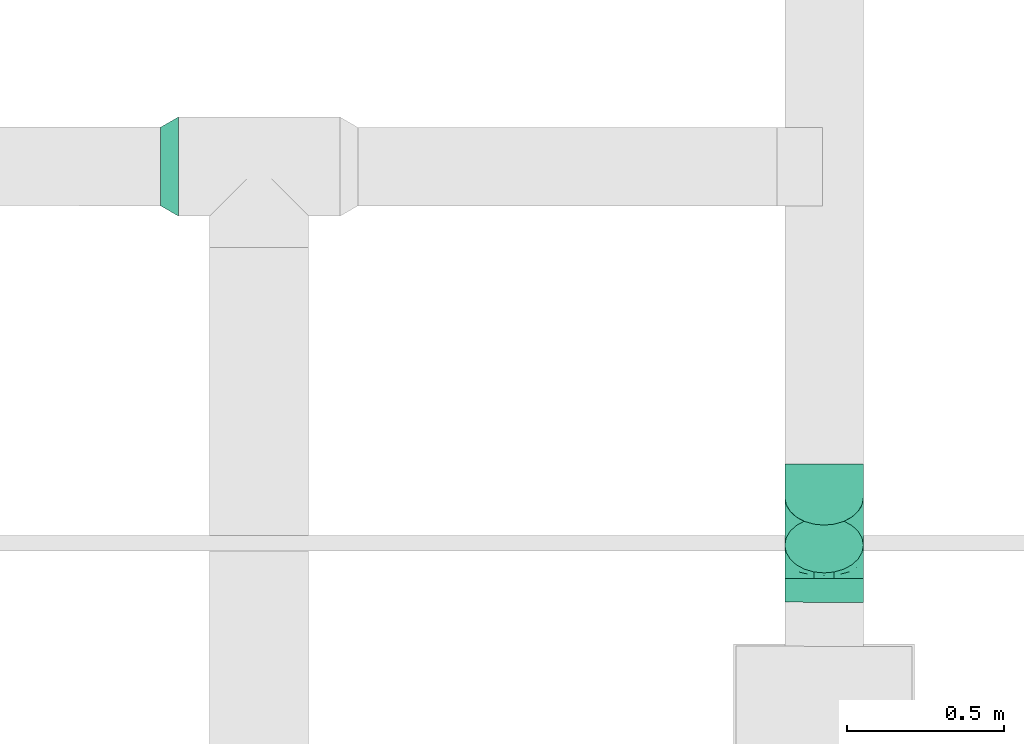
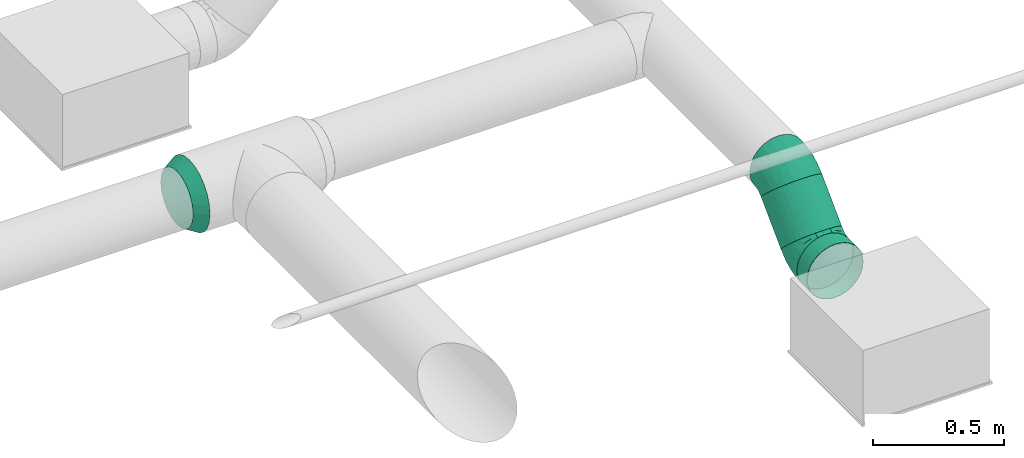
# One storey, part 35 of 63: 3 flow fittings, 2 flow segments.
"""IFC2X3 building model written with IfcOpenShell, lengths in millimetres."""

from ifc_helpers import new_model, entity, si_unit, converted_unit, derived_unit, direction, frame, origin_with_axes, origin_2d_with_axis, place, context, subcontext, project, spatial, hollow_circle, extrude, open_shell, surface_model, source, transform, mapped, type_object, element, save


model = new_model("IFC2X3")

# Units and contexts
model_context = context("Model", 3, precision=0.01, world=frame((0.0, 4.29681676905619e-09, 0.0)), true_north=direction((4.01073788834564e-13, 1.0)))
plan_context = context("Plan", 3, precision=0.01, world=frame((0.0, 4.29681676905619e-09, 0.0)), true_north=direction((4.01073788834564e-13, 1.0)))
body_context = subcontext(model_context, "Body", "Model", "MODEL_VIEW")
ifc_project = project(units=[converted_unit("PLANEANGLEUNIT", "DEGREE", entity("IfcPositiveLengthMeasure", 0.0174532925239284), si_unit("PLANEANGLEUNIT", "RADIAN"), dimensions=[0, 0, 0, 0, 0, 0, 0]), si_unit("AREAUNIT", "SQUARE_METRE"), si_unit("LENGTHUNIT", "METRE", prefix="MILLI"), si_unit("MASSUNIT", "GRAM", prefix="KILO"), si_unit("POWERUNIT", "WATT"), si_unit("PRESSUREUNIT", "PASCAL"), si_unit("FORCEUNIT", "NEWTON", prefix="KILO"), si_unit("ELECTRICVOLTAGEUNIT", "VOLT"), si_unit("ELECTRICCURRENTUNIT", "AMPERE"), si_unit("THERMODYNAMICTEMPERATUREUNIT", "DEGREE_CELSIUS"), si_unit("TIMEUNIT", "SECOND"), si_unit("VOLUMEUNIT", "CUBIC_METRE"), derived_unit("LINEARVELOCITYUNIT", [(si_unit("LENGTHUNIT", "METRE"), 1), (si_unit("TIMEUNIT", "SECOND"), -1)]), derived_unit("VOLUMETRICFLOWRATEUNIT", [(si_unit("VOLUMEUNIT", "CUBIC_METRE"), 1), (si_unit("TIMEUNIT", "SECOND"), -1)]), derived_unit("THERMALTRANSMITTANCEUNIT", [(si_unit("POWERUNIT", "WATT"), 1), (si_unit("THERMODYNAMICTEMPERATUREUNIT", "KELVIN"), -1), (si_unit("AREAUNIT", "SQUARE_METRE"), -1)]), derived_unit("SOUNDPRESSUREUNIT", [(si_unit("PRESSUREUNIT", "PASCAL"), 1)])], contexts=[model_context, plan_context])

# Site, building, storey
site_placement = place(None, frame((0.0, -4.29681676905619e-09, 0.0), z_axis=(0.0, 0.0, 1.0), x_axis=(1.0, 0.0, 0.0)))
site = spatial("IfcSite", under=ifc_project, at=site_placement, CompositionType="ELEMENT")
building_placement = place(site_placement, frame((0.0, 4.29681676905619e-09, 0.0), z_axis=(0.0, 0.0, 1.0), x_axis=(1.0, 0.0, 0.0)))
building = spatial("IfcBuilding", under=site, at=building_placement, Name="mc-building", CompositionType="ELEMENT")
storey_placement = place(building_placement, frame((0.0, 0.0, 210900.0), z_axis=(0.0, 0.0, 1.0), x_axis=(1.0, 0.0, 0.0)))
storey = spatial("IfcBuildingStorey", under=building, at=storey_placement, Name="Nivå F", CompositionType="ELEMENT", Elevation=210900.0)

# Flow fittings
duct_fitting_type_1 = type_object("IfcDuctFittingType", Name="magicirc_elbow_short_001", PredefinedType="BEND")
shared_shape_1 = source(origin_with_axes(), body_context, "Body", "SurfaceModel", [
    surface_model("IfcShellBasedSurfaceModel", [(-62.13204, 0.0, -125.0), (-62.13204, -32.35238, -120.74073), (-62.13204, 32.35238, -120.74073), (-62.13204, 62.5, -108.25318), (-62.13204, 88.38835, -88.38835), (-62.13204, 108.25318, -62.5), (-62.13204, 120.74073, -32.35238), (-62.13204, -62.5, -108.25318), (-62.13204, -88.38835, -88.38835), (-62.13204, -125.0, 0.0), (-62.13204, -108.25318, -62.5), (-62.13204, -120.74073, -32.35238), (-62.13204, 125.0, 0.0), (-62.13204, -120.74073, 32.35238), (-62.13204, 120.74073, 32.35238), (-62.13204, 108.25318, 62.5), (-62.13204, 32.35238, 120.74073), (-62.13204, 62.5, 108.25318), (-62.13204, 88.38835, 88.38835), (-62.13204, -88.38835, 88.38835), (-62.13204, -108.25318, 62.5), (-62.13204, -32.35238, 120.74073), (-62.13204, 0.0, 125.0), (-62.13204, -62.5, 108.25318), (-32.61257, 120.48054, -62.5), (-41.44261, 129.31057, -32.35238), (-44.45436, 132.32233, 0.0), (-41.44261, 129.31057, 32.35238), (-32.61257, 120.48054, 62.5), (-39.32094, -100.77129, 72.52866), (-25.3983, -115.58366, 40.92131), (-9.38975, -99.61313, 67.6303), (-40.71594, 99.20513, 81.38635), (-18.56602, 106.43398, 88.38835), (6.93461, -16.74165, 121.22697), (-29.92798, -19.88945, 122.8817), (-17.69423, -50.99343, 111.83063), (-28.63512, 12.8945, 124.68547), (-43.55871, 45.16564, 117.17454), (-19.1971, 46.34588, 119.14586), (20.11216, -107.05726, 35.36285), (37.22525, -89.79474, 60.1728), (-42.64489, 65.81413, 107.6176), (18.18237, -43.89615, 109.72868), (-48.14682, 116.23669, 52.46898), (11.13029, 29.36587, 124.68547), (-8.4822, -119.71595, 0.0), (17.31186, -111.89141, 0.0), (-27.44697, 77.92943, 103.54984), (-1.13628, 62.73759, 117.17454), (-0.26019, 88.12816, 108.25318), (29.58221, -71.41779, 87.09722), (2.27359, -83.55864, 84.32151), (46.20365, -49.09439, 98.73245), (43.10591, -104.06687, 0.0), (-28.63512, 12.89449, -124.68547), (-29.92797, -19.88945, -122.8817), (11.13029, 29.36586, -124.68547), (-19.1971, 46.34588, -119.14586), (-43.55871, 45.16564, -117.17454), (-35.69649, 74.51237, -103.54983), (-25.3983, -115.58366, -40.92131), (-48.14682, 116.23669, -52.46898), (-39.32094, -100.77129, -72.52866), (-16.38313, 76.69211, -107.6176), (-18.56602, 106.43398, -88.38835), (-0.26019, 88.12816, -108.25318), (-17.69423, -50.99343, -111.83063), (6.93461, -16.74165, -121.22697), (-1.13628, 62.73759, -117.17454), (48.5695, -23.54609, -111.83063), (35.22623, 7.0983, -122.8817), (-9.38975, -99.61313, -67.63031), (2.04406, -67.38589, -98.73245), (29.58221, -71.41778, -87.09723), (43.93399, 43.934, -125.0), (106.43399, -18.56599, 88.38835), (132.32235, -44.45434, 0.0), (21.05739, 66.81058, -120.74073), (88.12817, -0.26017, 108.25318), (66.81057, 21.05741, -120.74073), (106.43399, -18.56599, -88.38835), (88.12817, -0.26017, -108.25318), (129.31058, -41.44258, -32.35238), (120.48055, -32.61255, -62.5), (21.05739, 66.81058, 120.74073), (43.93399, 43.934, 125.0), (129.31058, -41.44258, 32.35238), (120.48055, -32.61255, 62.5), (66.81057, 21.05741, 120.74073), (-31.08246, -121.94188, 0.0), (35.22622, 7.09831, 122.8817), (-25.98217, -78.69805, 94.74512), (-3.43913, -67.17105, 100.02812), (77.07669, -63.79755, 67.6303), (61.9235, -89.5906, 35.66991), (-52.56496, 126.90301, 0.0), (99.68931, -63.77067, 40.92131), (48.5695, -23.54609, 111.83062), (99.06018, -43.45194, 72.52866), (74.0201, -37.27574, 94.74512), (108.20455, -64.2473, 0.0), (90.64979, -78.65413, 0.0), (66.87785, -91.36049, 0.0), (19.56361, -107.13664, -35.66991), (-41.35812, 98.93914, -81.38635), (-25.98217, -78.69805, -94.74512), (61.47949, -89.92235, -35.36285), (18.18239, -43.89616, -109.72867), (57.47721, -60.69254, -84.32152), (74.02009, -37.27574, -94.74513), (77.07669, -63.79755, -67.6303), (37.17223, -89.81669, -60.17279), (99.68931, -63.77066, -40.92131), (99.06018, -43.45194, -72.52866), (49.92893, -45.06527, -100.02812)], [open_shell([[[0, 1, 2]], [[3, 2, 4]], [[1, 5, 2]], [[4, 2, 5]], [[5, 1, 6]], [[7, 8, 1]], [[9, 1, 8]], [[10, 11, 8]], [[9, 8, 11]], [[9, 6, 1]], [[9, 12, 6]], [[12, 13, 14]], [[15, 14, 16]], [[16, 17, 18]], [[15, 16, 18]], [[16, 14, 19]], [[20, 19, 13]], [[19, 14, 13]], [[21, 22, 23]], [[19, 23, 22]], [[19, 22, 16]], [[9, 13, 12]], [[24, 25, 26]], [[26, 27, 28]], [[29, 30, 31]], [[32, 33, 28]], [[30, 20, 13]], [[34, 35, 36]], [[21, 35, 22]], [[21, 23, 36]], [[16, 22, 37]], [[38, 37, 39]], [[31, 40, 41]], [[42, 17, 38]], [[38, 17, 16]], [[43, 34, 36]], [[35, 37, 22]], [[14, 15, 44]], [[42, 32, 18]], [[29, 19, 20]], [[40, 31, 30]], [[37, 45, 39]], [[45, 37, 34]], [[40, 46, 47]], [[42, 18, 17]], [[33, 32, 48]], [[27, 44, 28]], [[48, 39, 49]], [[33, 48, 50]], [[44, 32, 28]], [[18, 32, 15]], [[36, 35, 21]], [[37, 35, 34]], [[41, 51, 52]], [[14, 44, 27]], [[32, 44, 15]], [[37, 38, 16]], [[42, 39, 48]], [[39, 42, 38]], [[42, 48, 32]], [[48, 49, 50]], [[45, 49, 39]], [[30, 29, 20]], [[53, 43, 51]], [[46, 40, 30]], [[47, 54, 40]], [[41, 52, 31]], [[0, 2, 55]], [[56, 1, 0]], [[57, 55, 58]], [[59, 60, 58]], [[10, 61, 11]], [[3, 4, 60]], [[62, 6, 25]], [[61, 10, 63]], [[64, 65, 66]], [[1, 56, 67]], [[8, 63, 10]], [[7, 1, 67]], [[56, 55, 68]], [[25, 24, 62]], [[69, 64, 66]], [[2, 3, 59]], [[59, 55, 2]], [[69, 57, 58]], [[70, 68, 71]], [[55, 57, 68]], [[55, 56, 0]], [[67, 56, 68]], [[57, 71, 68]], [[6, 62, 5]], [[60, 59, 3]], [[55, 59, 58]], [[64, 58, 60]], [[58, 64, 69]], [[61, 63, 72]], [[72, 73, 74]], [[75, 76, 77]], [[66, 26, 78]], [[78, 79, 75]], [[24, 66, 65]], [[66, 24, 26]], [[80, 81, 82]], [[80, 75, 81]], [[81, 83, 84]], [[83, 81, 77]], [[75, 77, 81]], [[26, 28, 50]], [[50, 85, 26]], [[50, 28, 33]], [[26, 85, 86]], [[87, 76, 88]], [[77, 76, 87]], [[79, 86, 89]], [[76, 75, 79]], [[86, 79, 26]], [[78, 26, 79]], [[90, 46, 30]], [[91, 45, 34]], [[23, 92, 36]], [[52, 93, 92]], [[94, 41, 95]], [[23, 19, 92]], [[96, 14, 27]], [[40, 95, 41]], [[96, 12, 14]], [[94, 95, 97]], [[40, 54, 95]], [[98, 89, 91]], [[99, 88, 76]], [[89, 98, 79]], [[88, 99, 97]], [[88, 97, 87]], [[98, 100, 79]], [[53, 94, 100]], [[97, 101, 87]], [[85, 50, 49]], [[41, 94, 51]], [[30, 13, 90]], [[26, 96, 27]], [[95, 102, 97]], [[95, 54, 103]], [[86, 91, 89]], [[86, 85, 45]], [[45, 85, 49]], [[34, 43, 98]], [[29, 92, 19]], [[79, 100, 76]], [[52, 92, 31]], [[95, 103, 102]], [[53, 100, 98]], [[99, 100, 94]], [[45, 91, 86]], [[98, 91, 34]], [[13, 9, 90]], [[101, 97, 102]], [[101, 77, 87]], [[92, 29, 31]], [[100, 99, 76]], [[97, 99, 94]], [[93, 36, 92]], [[51, 43, 93]], [[51, 93, 52]], [[43, 36, 93]], [[43, 53, 98]], [[94, 53, 51]], [[104, 46, 61]], [[78, 75, 57]], [[4, 105, 60]], [[73, 72, 106]], [[80, 82, 70]], [[61, 90, 11]], [[83, 77, 101]], [[106, 7, 67]], [[107, 102, 103]], [[104, 54, 47]], [[72, 104, 61]], [[106, 8, 7]], [[68, 108, 67]], [[6, 12, 96]], [[109, 110, 111]], [[96, 26, 25]], [[112, 72, 74]], [[113, 83, 101]], [[82, 81, 110]], [[113, 84, 83]], [[64, 105, 65]], [[4, 5, 105]], [[114, 81, 84]], [[110, 109, 115]], [[70, 82, 110]], [[66, 78, 69]], [[75, 80, 71]], [[111, 114, 113]], [[108, 68, 70]], [[113, 101, 102]], [[107, 104, 112]], [[107, 111, 113]], [[111, 107, 112]], [[71, 57, 75]], [[104, 47, 46]], [[96, 25, 6]], [[114, 110, 81]], [[107, 54, 104]], [[73, 106, 67]], [[63, 106, 72]], [[62, 105, 5]], [[65, 105, 24]], [[70, 71, 80]], [[90, 61, 46]], [[90, 9, 11]], [[72, 112, 104]], [[112, 74, 109]], [[105, 62, 24]], [[57, 69, 78]], [[64, 60, 105]], [[113, 114, 84]], [[110, 114, 111]], [[106, 63, 8]], [[115, 70, 110]], [[73, 108, 74]], [[102, 107, 113]], [[103, 54, 107]], [[112, 109, 111]], [[74, 108, 115]], [[74, 115, 109]], [[108, 70, 115]], [[108, 73, 67]]])]),
])
flow_fitting_1_placement = place(storey_placement, frame((526902.48961, 458540.3671, 3960.01264), z_axis=(0.999999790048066, -0.000647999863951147, 0.0), x_axis=(0.000647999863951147, 0.999999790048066, 0.0)))
element("IfcFlowFitting", 1, at=flow_fitting_1_placement, inside=storey, type_object=duct_fitting_type_1, Name="magicirc_elbow_short_001", context=body_context, shape_type="MappedRepresentation", body=[
    mapped(shared_shape_1, transform((0.0, 0.0, 0.0), scale=1.0)),
])
shared_shape_2 = source(origin_with_axes(), body_context, "Body", "SurfaceModel", [
    surface_model("IfcShellBasedSurfaceModel", [(-62.13204, 0.0, -125.0), (-62.13204, -32.35238, -120.74073), (-62.13204, 32.35238, -120.74073), (-62.13204, 62.5, -108.25318), (-62.13204, 88.38835, -88.38835), (-62.13204, 108.25318, -62.5), (-62.13204, 120.74073, -32.35238), (-62.13204, -62.5, -108.25318), (-62.13204, -88.38835, -88.38835), (-62.13204, -125.0, 0.0), (-62.13204, -108.25318, -62.5), (-62.13204, -120.74073, -32.35238), (-62.13204, 125.0, 0.0), (-62.13204, -120.74073, 32.35238), (-62.13204, 120.74073, 32.35238), (-62.13204, 108.25318, 62.5), (-62.13204, 32.35238, 120.74073), (-62.13204, 62.5, 108.25318), (-62.13204, 88.38835, 88.38835), (-62.13204, -88.38835, 88.38835), (-62.13204, -108.25318, 62.5), (-62.13204, -32.35238, 120.74073), (-62.13204, 0.0, 125.0), (-62.13204, -62.5, 108.25318), (-32.61257, 120.48054, -62.5), (-41.44261, 129.31057, -32.35238), (-44.45436, 132.32233, 0.0), (-41.44261, 129.31057, 32.35238), (-32.61257, 120.48054, 62.5), (-39.32094, -100.77129, 72.52866), (-25.3983, -115.58366, 40.92131), (-9.38975, -99.61313, 67.6303), (-40.71594, 99.20513, 81.38635), (-18.56602, 106.43398, 88.38835), (6.93461, -16.74165, 121.22697), (-29.92798, -19.88945, 122.8817), (-17.69423, -50.99343, 111.83063), (-28.63512, 12.8945, 124.68547), (-43.55871, 45.16564, 117.17454), (-19.1971, 46.34588, 119.14586), (20.11216, -107.05726, 35.36285), (37.22525, -89.79474, 60.1728), (-42.64489, 65.81413, 107.6176), (18.18237, -43.89615, 109.72868), (-48.14682, 116.23669, 52.46898), (11.13029, 29.36587, 124.68547), (-8.4822, -119.71595, 0.0), (17.31186, -111.89141, 0.0), (-27.44697, 77.92943, 103.54984), (-1.13628, 62.73759, 117.17454), (-0.26019, 88.12816, 108.25318), (29.58221, -71.41779, 87.09722), (2.27359, -83.55864, 84.32151), (46.20365, -49.09439, 98.73245), (43.10591, -104.06687, 0.0), (-28.63512, 12.89449, -124.68547), (-29.92797, -19.88945, -122.8817), (11.13029, 29.36586, -124.68547), (-19.1971, 46.34588, -119.14586), (-43.55871, 45.16564, -117.17454), (-35.69649, 74.51237, -103.54983), (-25.3983, -115.58366, -40.92131), (-48.14682, 116.23669, -52.46898), (-39.32094, -100.77129, -72.52866), (-16.38313, 76.69211, -107.6176), (-18.56602, 106.43398, -88.38835), (-0.26019, 88.12816, -108.25318), (-17.69423, -50.99343, -111.83063), (6.93461, -16.74165, -121.22697), (-1.13628, 62.73759, -117.17454), (48.5695, -23.54609, -111.83063), (35.22623, 7.0983, -122.8817), (-9.38975, -99.61313, -67.63031), (2.04406, -67.38589, -98.73245), (29.58221, -71.41778, -87.09723), (43.93399, 43.934, -125.0), (106.43399, -18.56599, 88.38835), (132.32235, -44.45434, 0.0), (21.05739, 66.81058, -120.74073), (88.12817, -0.26017, 108.25318), (66.81057, 21.05741, -120.74073), (106.43399, -18.56599, -88.38835), (88.12817, -0.26017, -108.25318), (129.31058, -41.44258, -32.35238), (120.48055, -32.61255, -62.5), (21.05739, 66.81058, 120.74073), (43.93399, 43.934, 125.0), (129.31058, -41.44258, 32.35238), (120.48055, -32.61255, 62.5), (66.81057, 21.05741, 120.74073), (-31.08246, -121.94188, 0.0), (35.22622, 7.09831, 122.8817), (77.07669, -63.79755, 67.6303), (61.9235, -89.5906, 35.66991), (-52.56496, 126.90301, 0.0), (99.68931, -63.77067, 40.92131), (48.5695, -23.54609, 111.83062), (99.06018, -43.45194, 72.52866), (74.0201, -37.27574, 94.74512), (108.20455, -64.2473, 0.0), (90.64979, -78.65413, 0.0), (66.87785, -91.36049, 0.0), (-3.43913, -67.17105, 100.02812), (19.56361, -107.13664, -35.66991), (-41.35812, 98.93914, -81.38635), (-25.98217, -78.69805, -94.74512), (61.47949, -89.92235, -35.36285), (18.18239, -43.89616, -109.72867), (57.47721, -60.69254, -84.32152), (74.02009, -37.27574, -94.74513), (77.07669, -63.79755, -67.6303), (37.17223, -89.81669, -60.17279), (99.68931, -63.77066, -40.92131), (99.06018, -43.45194, -72.52866), (49.92893, -45.06527, -100.02812), (-25.98217, -78.69805, 94.74512)], [open_shell([[[0, 1, 2]], [[3, 2, 4]], [[1, 5, 2]], [[4, 2, 5]], [[5, 1, 6]], [[7, 8, 1]], [[9, 1, 8]], [[10, 11, 8]], [[9, 8, 11]], [[9, 6, 1]], [[9, 12, 6]], [[12, 13, 14]], [[15, 14, 16]], [[16, 17, 18]], [[15, 16, 18]], [[16, 14, 19]], [[20, 19, 13]], [[19, 14, 13]], [[21, 22, 23]], [[19, 23, 22]], [[19, 22, 16]], [[9, 13, 12]], [[24, 25, 26]], [[26, 27, 28]], [[29, 30, 31]], [[32, 33, 28]], [[30, 20, 13]], [[34, 35, 36]], [[21, 35, 22]], [[21, 23, 36]], [[16, 22, 37]], [[38, 37, 39]], [[31, 40, 41]], [[42, 17, 38]], [[38, 17, 16]], [[43, 34, 36]], [[35, 37, 22]], [[14, 15, 44]], [[42, 32, 18]], [[29, 19, 20]], [[40, 31, 30]], [[37, 45, 39]], [[45, 37, 34]], [[40, 46, 47]], [[42, 18, 17]], [[33, 32, 48]], [[27, 44, 28]], [[48, 39, 49]], [[33, 48, 50]], [[44, 32, 28]], [[18, 32, 15]], [[36, 35, 21]], [[37, 35, 34]], [[41, 51, 52]], [[14, 44, 27]], [[32, 44, 15]], [[37, 38, 16]], [[42, 39, 48]], [[39, 42, 38]], [[42, 48, 32]], [[48, 49, 50]], [[45, 49, 39]], [[30, 29, 20]], [[53, 43, 51]], [[46, 40, 30]], [[47, 54, 40]], [[41, 52, 31]], [[0, 2, 55]], [[56, 1, 0]], [[57, 55, 58]], [[59, 60, 58]], [[10, 61, 11]], [[3, 4, 60]], [[62, 6, 25]], [[61, 10, 63]], [[64, 65, 66]], [[1, 56, 67]], [[8, 63, 10]], [[7, 1, 67]], [[56, 55, 68]], [[25, 24, 62]], [[69, 64, 66]], [[2, 3, 59]], [[59, 55, 2]], [[69, 57, 58]], [[70, 68, 71]], [[55, 57, 68]], [[55, 56, 0]], [[67, 56, 68]], [[57, 71, 68]], [[6, 62, 5]], [[60, 59, 3]], [[55, 59, 58]], [[64, 58, 60]], [[58, 64, 69]], [[61, 63, 72]], [[72, 73, 74]], [[75, 76, 77]], [[66, 26, 78]], [[78, 79, 75]], [[24, 66, 65]], [[66, 24, 26]], [[80, 81, 82]], [[80, 75, 81]], [[81, 83, 84]], [[83, 81, 77]], [[75, 77, 81]], [[26, 28, 50]], [[50, 85, 26]], [[50, 28, 33]], [[26, 85, 86]], [[87, 76, 88]], [[77, 76, 87]], [[79, 86, 89]], [[76, 75, 79]], [[86, 79, 26]], [[78, 26, 79]], [[90, 46, 30]], [[91, 45, 34]], [[92, 41, 93]], [[94, 14, 27]], [[40, 93, 41]], [[94, 12, 14]], [[92, 93, 95]], [[40, 54, 93]], [[96, 89, 91]], [[97, 88, 76]], [[89, 96, 79]], [[88, 97, 95]], [[88, 95, 87]], [[96, 98, 79]], [[53, 92, 98]], [[95, 99, 87]], [[85, 50, 49]], [[41, 92, 51]], [[30, 13, 90]], [[26, 94, 27]], [[93, 100, 95]], [[93, 54, 101]], [[86, 91, 89]], [[86, 85, 45]], [[45, 85, 49]], [[34, 43, 96]], [[79, 98, 76]], [[93, 101, 100]], [[53, 98, 96]], [[97, 98, 92]], [[45, 91, 86]], [[96, 91, 34]], [[13, 9, 90]], [[99, 95, 100]], [[99, 77, 87]], [[98, 97, 76]], [[95, 97, 92]], [[51, 43, 102]], [[51, 102, 52]], [[43, 36, 102]], [[43, 53, 96]], [[92, 53, 51]], [[103, 46, 61]], [[78, 75, 57]], [[4, 104, 60]], [[73, 72, 105]], [[80, 82, 70]], [[61, 90, 11]], [[83, 77, 99]], [[105, 7, 67]], [[106, 100, 101]], [[103, 54, 47]], [[72, 103, 61]], [[105, 8, 7]], [[68, 107, 67]], [[6, 12, 94]], [[108, 109, 110]], [[94, 26, 25]], [[111, 72, 74]], [[112, 83, 99]], [[82, 81, 109]], [[112, 84, 83]], [[64, 104, 65]], [[4, 5, 104]], [[113, 81, 84]], [[109, 108, 114]], [[70, 82, 109]], [[66, 78, 69]], [[75, 80, 71]], [[110, 113, 112]], [[107, 68, 70]], [[112, 99, 100]], [[106, 103, 111]], [[106, 110, 112]], [[110, 106, 111]], [[71, 57, 75]], [[103, 47, 46]], [[94, 25, 6]], [[113, 109, 81]], [[106, 54, 103]], [[73, 105, 67]], [[63, 105, 72]], [[62, 104, 5]], [[65, 104, 24]], [[70, 71, 80]], [[90, 61, 46]], [[90, 9, 11]], [[72, 111, 103]], [[111, 74, 108]], [[104, 62, 24]], [[57, 69, 78]], [[64, 60, 104]], [[112, 113, 84]], [[109, 113, 110]], [[105, 63, 8]], [[114, 70, 109]], [[73, 107, 74]], [[100, 106, 112]], [[101, 54, 106]], [[111, 108, 110]], [[74, 107, 114]], [[74, 114, 108]], [[107, 70, 114]], [[107, 73, 67]], [[23, 115, 36]], [[52, 102, 115]], [[23, 19, 115]], [[29, 115, 19]], [[52, 115, 31]], [[115, 29, 31]], [[102, 36, 115]]])]),
])
flow_fitting_2_placement = place(storey_placement, frame((526902.64506, 458780.35435, 4200.0), z_axis=(-0.999999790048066, 0.000647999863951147, -3.79470760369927e-19), x_axis=(0.000458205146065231, 0.707106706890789, 0.707106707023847)))
element("IfcFlowFitting", 2, at=flow_fitting_2_placement, inside=storey, type_object=duct_fitting_type_1, Name="magicirc_elbow_short_001", context=body_context, shape_type="MappedRepresentation", body=[
    mapped(shared_shape_2, transform((0.0, 0.0, 0.0), scale=1.0)),
])
duct_fitting_type_2 = type_object("IfcDuctFittingType", Name="magicirc_reduction_001", PredefinedType="TRANSITION")
shared_shape_3 = source(origin_with_axes(), body_context, "Body", "SurfaceModel", [
    surface_model("IfcShellBasedSurfaceModel", [(0.0, 78.75, 136.39901), (0.0, 157.5, 0.0), (0.0, 40.764, 152.13332), (0.0, -78.75, 136.39901), (0.0, -152.13332, -40.764), (0.0, -111.36932, 111.36932), (0.0, -136.39901, 78.75), (0.0, -152.13332, 40.764), (0.0, -157.5, 0.0), (0.0, 152.13332, -40.764), (0.0, 136.39901, -78.75), (0.0, 0.0, -157.5), (0.0, 111.36932, -111.36932), (0.0, 78.75, -136.39901), (0.0, 40.764, -152.13332), (0.0, -136.39901, -78.75), (0.0, -78.75, -136.39901), (0.0, -111.36932, -111.36932), (0.0, -40.764, -152.13332), (0.0, 0.0, 157.5), (56.29165, 38.62713, 118.88206), (56.29165, -38.62713, 118.88206), (56.29165, -73.47315, 101.12712), (56.29165, -101.12712, 73.47315), (56.29165, -118.88206, 38.62713), (56.29165, -125.0, 0.0), (56.29165, 0.0, 125.0), (56.29165, 118.88206, -38.62713), (56.29165, 73.47315, 101.12712), (56.29165, 101.12712, 73.47315), (56.29165, 118.88206, 38.62713), (56.29165, -118.88206, -38.62713), (56.29165, -101.12712, -73.47315), (56.29165, 0.0, -125.0), (56.29165, -73.47315, -101.12712), (56.29165, -38.62713, -118.88206), (56.29165, 125.0, 0.0), (56.29165, 73.47315, -101.12712), (56.29165, 101.12712, -73.47315), (56.29165, 38.62713, -118.88206), (0.0, 136.39901, 78.75), (0.0, 111.36932, 111.36932), (0.0, -40.764, 152.13332), (0.0, 152.13332, 40.764)], [open_shell([[[0, 1, 2]], [[3, 4, 5]], [[6, 5, 4]], [[6, 4, 7]], [[7, 4, 8]], [[1, 9, 10]], [[11, 12, 13]], [[14, 11, 13]], [[15, 16, 17]], [[16, 11, 18]], [[1, 4, 19]], [[20, 21, 22]], [[23, 24, 25]], [[23, 25, 22]], [[20, 22, 25]], [[26, 21, 20]], [[20, 27, 28]], [[28, 27, 29]], [[27, 30, 29]], [[25, 27, 20]], [[31, 32, 33]], [[34, 35, 33]], [[34, 33, 32]], [[33, 27, 25]], [[30, 27, 36]], [[33, 37, 38]], [[38, 27, 33]], [[37, 33, 39]], [[25, 31, 33]], [[1, 19, 2]], [[40, 1, 41]], [[41, 1, 0]], [[5, 19, 4]], [[19, 5, 3]], [[3, 42, 19]], [[5, 4, 6]], [[8, 7, 4]], [[1, 40, 43]], [[1, 10, 14]], [[13, 14, 10]], [[13, 10, 12]], [[1, 14, 4]], [[14, 17, 15]], [[15, 4, 14]], [[14, 16, 17]], [[18, 16, 14]], [[11, 18, 14]], [[35, 34, 16]], [[33, 35, 18]], [[18, 11, 33]], [[16, 18, 35]], [[34, 17, 16]], [[31, 25, 4]], [[32, 31, 15]], [[15, 17, 32]], [[4, 15, 31]], [[25, 8, 4]], [[32, 17, 34]], [[27, 38, 10]], [[36, 27, 9]], [[9, 1, 36]], [[10, 9, 27]], [[38, 12, 10]], [[39, 33, 14]], [[37, 39, 13]], [[13, 12, 37]], [[14, 13, 39]], [[33, 11, 14]], [[37, 12, 38]], [[20, 28, 0]], [[26, 20, 2]], [[2, 19, 26]], [[0, 2, 20]], [[28, 41, 0]], [[30, 36, 43]], [[29, 30, 40]], [[40, 41, 29]], [[43, 40, 30]], [[36, 1, 43]], [[29, 41, 28]], [[24, 23, 6]], [[25, 24, 7]], [[7, 8, 25]], [[6, 7, 24]], [[23, 5, 6]], [[21, 26, 42]], [[22, 21, 3]], [[3, 5, 22]], [[42, 3, 21]], [[26, 19, 42]], [[22, 5, 23]], [[42, 19, 2]], [[0, 42, 2]], [[0, 41, 1]], [[0, 1, 42]], [[42, 4, 3]], [[11, 1, 9]], [[10, 11, 9]], [[12, 11, 10]], [[11, 15, 4]], [[11, 16, 15]], [[4, 1, 11]], [[1, 4, 42]], [[21, 22, 25]], [[21, 25, 26]], [[20, 26, 28]], [[26, 29, 28]], [[30, 29, 27]], [[27, 29, 26]], [[26, 25, 35]], [[31, 32, 34]], [[35, 27, 26]], [[35, 31, 34]], [[39, 35, 33]], [[35, 38, 27]], [[35, 37, 38]], [[39, 37, 35]], [[25, 31, 35]], [[25, 7, 8]], [[7, 24, 6]], [[19, 42, 26]], [[3, 21, 42]], [[26, 2, 19]], [[2, 20, 0]], [[1, 43, 36]], [[40, 30, 43]], [[36, 9, 1]], [[9, 27, 10]], [[11, 14, 33]], [[13, 39, 14]], [[33, 18, 11]], [[18, 35, 16]], [[8, 4, 25]], [[15, 31, 4]], [[26, 21, 22]], [[26, 23, 20]], [[23, 26, 22]], [[23, 27, 29]], [[28, 20, 29]], [[29, 36, 30]], [[29, 20, 23]], [[29, 27, 36]], [[23, 31, 27]], [[32, 34, 35]], [[27, 31, 32]], [[33, 32, 35]], [[38, 27, 37]], [[33, 37, 27]], [[27, 32, 33]], [[31, 23, 25]], [[41, 19, 2]], [[41, 2, 0]], [[19, 40, 4]], [[40, 19, 41]], [[7, 19, 4]], [[42, 5, 3]], [[42, 19, 5]], [[5, 7, 6]], [[19, 7, 5]], [[43, 10, 40]], [[9, 10, 43]], [[40, 10, 4]], [[4, 10, 13]], [[18, 13, 14]], [[4, 17, 15]], [[17, 4, 16]], [[13, 18, 16]], [[16, 4, 13]], [[43, 1, 9]], [[13, 37, 39]], [[38, 37, 12]], [[33, 14, 39]], [[27, 10, 9]], [[37, 13, 12]], [[11, 33, 18]], [[18, 33, 35]], [[34, 16, 35]], [[15, 32, 31]], [[17, 34, 32]], [[4, 31, 25]], [[17, 32, 15]], [[31, 4, 15]], [[3, 22, 21]], [[23, 22, 5]], [[26, 42, 21]], [[24, 6, 7]], [[22, 3, 5]], [[19, 26, 2]], [[2, 26, 20]], [[28, 0, 20]], [[40, 29, 30]], [[41, 28, 29]], [[43, 30, 36]], [[41, 29, 40]], [[30, 43, 40]]])]),
])
flow_fitting_3_placement = place(storey_placement, frame((524847.20504, 459789.22051, 4200.0), z_axis=(0.0, 0.0, 1.0), x_axis=(-0.999999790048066, 0.000647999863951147, 0.0)))
element("IfcFlowFitting", 3, at=flow_fitting_3_placement, inside=storey, type_object=duct_fitting_type_2, Name="magicirc_reduction_001", context=body_context, shape_type="MappedRepresentation", body=[
    mapped(shared_shape_3, transform((0.0, 0.0, 0.0), scale=1.0)),
])

# Flow segments
duct_segment_type = type_object("IfcDuctSegmentType", Name="KK002T - Spiro kanaler, Forsinket stål, korte bend", PredefinedType="RIGIDSEGMENT")
shared_shape_4 = source(origin_with_axes(), body_context, "Body", "SweptSolid", [
    extrude(hollow_circle(Radius=125.0, WallThickness=2.0, at=origin_2d_with_axis()), frame((0.0, 0.0, 0.0), z_axis=(1.0, 0.0, 0.0), x_axis=(0.0, 1.0, 0.0)), (0.0, 0.0, 1.0), 75.7),
])
flow_segment_1_placement = place(storey_placement, frame((526902.40031, 458402.51509, 3960.01264), z_axis=(0.0, 0.0, 1.0), x_axis=(0.000647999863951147, 0.999999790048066, 0.0)))
element("IfcFlowSegment", 4, at=flow_segment_1_placement, inside=storey, type_object=duct_segment_type, Name="KK002T - Spiro kanaler, Forsinket stål, korte bend", context=body_context, shape_type="MappedRepresentation", body=[
    mapped(shared_shape_4, transform((0.0, 0.0, 0.0), scale=1.0)),
])
shared_shape_5 = source(origin_with_axes(), body_context, "Body", "SweptSolid", [
    extrude(hollow_circle(Radius=125.0, WallThickness=2.0, at=origin_2d_with_axis()), frame((0.0, 0.0, 0.0), z_axis=(1.0, 0.0, 0.0), x_axis=(0.0, 1.0, 0.0)), (0.0, 0.0, 1.0), 215.1),
])
flow_segment_2_placement = place(storey_placement, frame((526902.51806, 458584.30108, 4003.94662999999), z_axis=(-0.00045799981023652, -0.707106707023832, 0.707106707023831), x_axis=(0.000457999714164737, 0.707106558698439, 0.707106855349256)))
element("IfcFlowSegment", 5, at=flow_segment_2_placement, inside=storey, type_object=duct_segment_type, Name="KK002T - Spiro kanaler, Forsinket stål, korte bend", context=body_context, shape_type="MappedRepresentation", body=[
    mapped(shared_shape_5, transform((0.0, 0.0, 0.0), scale=1.0)),
])

save(model, "model.ifc")
